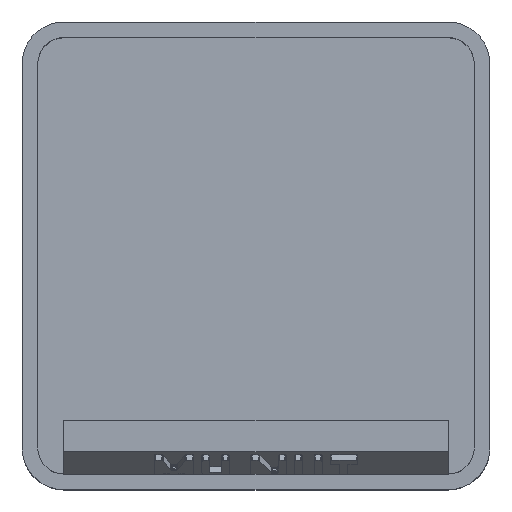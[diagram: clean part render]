
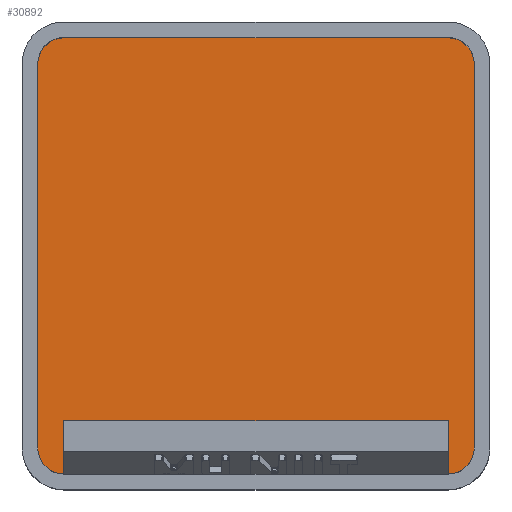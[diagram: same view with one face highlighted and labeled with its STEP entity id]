
A CAD part, top view. The second image highlights one B-rep face of the part: STEP entity #30892.
In plain terms, the highlighted planar face has unit normal (0, 0, 1).
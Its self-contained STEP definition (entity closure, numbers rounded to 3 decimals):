
#912 = PLANE('',#913);
#913 = AXIS2_PLACEMENT_3D('',#914,#915,#916);
#914 = CARTESIAN_POINT('',(-19.6,0.,21.));
#915 = DIRECTION('',(-1.,0.,0.));
#916 = DIRECTION('',(-0.,-1.,-0.));
#940 = CYLINDRICAL_SURFACE('',#941,2.35);
#941 = AXIS2_PLACEMENT_3D('',#942,#943,#944);
#942 = CARTESIAN_POINT('',(-17.25,17.25,5.95));
#943 = DIRECTION('',(-0.,-0.,1.));
#944 = DIRECTION('',(-1.,0.,0.));
#967 = PLANE('',#968);
#968 = AXIS2_PLACEMENT_3D('',#969,#970,#971);
#969 = CARTESIAN_POINT('',(0.,19.6,21.));
#970 = DIRECTION('',(0.,1.,0.));
#971 = DIRECTION('',(-1.,0.,0.));
#995 = CYLINDRICAL_SURFACE('',#996,2.35);
#996 = AXIS2_PLACEMENT_3D('',#997,#998,#999);
#997 = CARTESIAN_POINT('',(17.25,17.25,5.95));
#998 = DIRECTION('',(-0.,-0.,1.));
#999 = DIRECTION('',(-1.,0.,0.));
#1022 = PLANE('',#1023);
#1023 = AXIS2_PLACEMENT_3D('',#1024,#1025,#1026);
#1024 = CARTESIAN_POINT('',(19.6,0.,21.));
#1025 = DIRECTION('',(1.,0.,0.));
#1026 = DIRECTION('',(-0.,1.,0.));
#1050 = CYLINDRICAL_SURFACE('',#1051,2.35);
#1051 = AXIS2_PLACEMENT_3D('',#1052,#1053,#1054);
#1052 = CARTESIAN_POINT('',(17.25,-17.25,5.95));
#1053 = DIRECTION('',(-0.,-0.,1.));
#1054 = DIRECTION('',(-1.,0.,0.));
#1103 = CYLINDRICAL_SURFACE('',#1104,2.35);
#1104 = AXIS2_PLACEMENT_3D('',#1105,#1106,#1107);
#1105 = CARTESIAN_POINT('',(-17.25,-17.25,5.95));
#1106 = DIRECTION('',(-0.,-0.,1.));
#1107 = DIRECTION('',(-1.,0.,0.));
#11677 = EDGE_CURVE('',#11678,#11680,#11682,.T.);
#11678 = VERTEX_POINT('',#11679);
#11679 = CARTESIAN_POINT('',(-19.6,-17.25,5.95));
#11680 = VERTEX_POINT('',#11681);
#11681 = CARTESIAN_POINT('',(-19.6,17.25,5.95));
#11682 = SURFACE_CURVE('',#11683,(#11687,#11694),.PCURVE_S1.);
#11683 = LINE('',#11684,#11685);
#11684 = CARTESIAN_POINT('',(-19.6,0.,5.95));
#11685 = VECTOR('',#11686,1.);
#11686 = DIRECTION('',(0.,1.,0.));
#11687 = PCURVE('',#912,#11688);
#11688 = DEFINITIONAL_REPRESENTATION('',(#11689),#11693);
#11689 = LINE('',#11690,#11691);
#11690 = CARTESIAN_POINT('',(0.,-15.05));
#11691 = VECTOR('',#11692,1.);
#11692 = DIRECTION('',(-1.,0.));
#11693 = ( GEOMETRIC_REPRESENTATION_CONTEXT(2) 
PARAMETRIC_REPRESENTATION_CONTEXT() REPRESENTATION_CONTEXT('2D SPACE',''
  ) );
#11694 = PCURVE('',#11695,#11700);
#11695 = PLANE('',#11696);
#11696 = AXIS2_PLACEMENT_3D('',#11697,#11698,#11699);
#11697 = CARTESIAN_POINT('',(-17.25,-17.25,5.95));
#11698 = DIRECTION('',(0.,0.,-1.));
#11699 = DIRECTION('',(-1.,0.,0.));
#11700 = DEFINITIONAL_REPRESENTATION('',(#11701),#11705);
#11701 = LINE('',#11702,#11703);
#11702 = CARTESIAN_POINT('',(2.35,17.25));
#11703 = VECTOR('',#11704,1.);
#11704 = DIRECTION('',(0.,1.));
#11705 = ( GEOMETRIC_REPRESENTATION_CONTEXT(2) 
PARAMETRIC_REPRESENTATION_CONTEXT() REPRESENTATION_CONTEXT('2D SPACE',''
  ) );
#11752 = EDGE_CURVE('',#11753,#11678,#11755,.T.);
#11753 = VERTEX_POINT('',#11754);
#11754 = CARTESIAN_POINT('',(-17.25,-19.6,5.95));
#11755 = SURFACE_CURVE('',#11756,(#11761,#11768),.PCURVE_S1.);
#11756 = CIRCLE('',#11757,2.35);
#11757 = AXIS2_PLACEMENT_3D('',#11758,#11759,#11760);
#11758 = CARTESIAN_POINT('',(-17.25,-17.25,5.95));
#11759 = DIRECTION('',(0.,0.,-1.));
#11760 = DIRECTION('',(-1.,0.,0.));
#11761 = PCURVE('',#1103,#11762);
#11762 = DEFINITIONAL_REPRESENTATION('',(#11763),#11767);
#11763 = LINE('',#11764,#11765);
#11764 = CARTESIAN_POINT('',(6.283,0.));
#11765 = VECTOR('',#11766,1.);
#11766 = DIRECTION('',(-1.,0.));
#11767 = ( GEOMETRIC_REPRESENTATION_CONTEXT(2) 
PARAMETRIC_REPRESENTATION_CONTEXT() REPRESENTATION_CONTEXT('2D SPACE',''
  ) );
#11768 = PCURVE('',#11695,#11769);
#11769 = DEFINITIONAL_REPRESENTATION('',(#11770),#11774);
#11770 = CIRCLE('',#11771,2.35);
#11771 = AXIS2_PLACEMENT_2D('',#11772,#11773);
#11772 = CARTESIAN_POINT('',(0.,0.));
#11773 = DIRECTION('',(1.,0.));
#11774 = ( GEOMETRIC_REPRESENTATION_CONTEXT(2) 
PARAMETRIC_REPRESENTATION_CONTEXT() REPRESENTATION_CONTEXT('2D SPACE',''
  ) );
#11792 = PLANE('',#11793);
#11793 = AXIS2_PLACEMENT_3D('',#11794,#11795,#11796);
#11794 = CARTESIAN_POINT('',(0.,-19.6,21.));
#11795 = DIRECTION('',(0.,-1.,0.));
#11796 = DIRECTION('',(1.,0.,0.));
#11879 = EDGE_CURVE('',#11880,#11882,#11884,.T.);
#11880 = VERTEX_POINT('',#11881);
#11881 = CARTESIAN_POINT('',(19.6,-17.25,5.95));
#11882 = VERTEX_POINT('',#11883);
#11883 = CARTESIAN_POINT('',(17.25,-19.6,5.95));
#11884 = SURFACE_CURVE('',#11885,(#11890,#11897),.PCURVE_S1.);
#11885 = CIRCLE('',#11886,2.35);
#11886 = AXIS2_PLACEMENT_3D('',#11887,#11888,#11889);
#11887 = CARTESIAN_POINT('',(17.25,-17.25,5.95));
#11888 = DIRECTION('',(0.,0.,-1.));
#11889 = DIRECTION('',(-1.,0.,0.));
#11890 = PCURVE('',#1050,#11891);
#11891 = DEFINITIONAL_REPRESENTATION('',(#11892),#11896);
#11892 = LINE('',#11893,#11894);
#11893 = CARTESIAN_POINT('',(6.283,0.));
#11894 = VECTOR('',#11895,1.);
#11895 = DIRECTION('',(-1.,0.));
#11896 = ( GEOMETRIC_REPRESENTATION_CONTEXT(2) 
PARAMETRIC_REPRESENTATION_CONTEXT() REPRESENTATION_CONTEXT('2D SPACE',''
  ) );
#11897 = PCURVE('',#11695,#11898);
#11898 = DEFINITIONAL_REPRESENTATION('',(#11899),#11903);
#11899 = CIRCLE('',#11900,2.35);
#11900 = AXIS2_PLACEMENT_2D('',#11901,#11902);
#11901 = CARTESIAN_POINT('',(-34.5,0.));
#11902 = DIRECTION('',(1.,0.));
#11903 = ( GEOMETRIC_REPRESENTATION_CONTEXT(2) 
PARAMETRIC_REPRESENTATION_CONTEXT() REPRESENTATION_CONTEXT('2D SPACE',''
  ) );
#11977 = EDGE_CURVE('',#11880,#11978,#11980,.T.);
#11978 = VERTEX_POINT('',#11979);
#11979 = CARTESIAN_POINT('',(19.6,17.25,5.95));
#11980 = SURFACE_CURVE('',#11981,(#11985,#11992),.PCURVE_S1.);
#11981 = LINE('',#11982,#11983);
#11982 = CARTESIAN_POINT('',(19.6,0.,5.95));
#11983 = VECTOR('',#11984,1.);
#11984 = DIRECTION('',(0.,1.,0.));
#11985 = PCURVE('',#1022,#11986);
#11986 = DEFINITIONAL_REPRESENTATION('',(#11987),#11991);
#11987 = LINE('',#11988,#11989);
#11988 = CARTESIAN_POINT('',(0.,-15.05));
#11989 = VECTOR('',#11990,1.);
#11990 = DIRECTION('',(1.,0.));
#11991 = ( GEOMETRIC_REPRESENTATION_CONTEXT(2) 
PARAMETRIC_REPRESENTATION_CONTEXT() REPRESENTATION_CONTEXT('2D SPACE',''
  ) );
#11992 = PCURVE('',#11695,#11993);
#11993 = DEFINITIONAL_REPRESENTATION('',(#11994),#11998);
#11994 = LINE('',#11995,#11996);
#11995 = CARTESIAN_POINT('',(-36.85,17.25));
#11996 = VECTOR('',#11997,1.);
#11997 = DIRECTION('',(0.,1.));
#11998 = ( GEOMETRIC_REPRESENTATION_CONTEXT(2) 
PARAMETRIC_REPRESENTATION_CONTEXT() REPRESENTATION_CONTEXT('2D SPACE',''
  ) );
#12025 = EDGE_CURVE('',#12026,#11978,#12028,.T.);
#12026 = VERTEX_POINT('',#12027);
#12027 = CARTESIAN_POINT('',(17.25,19.6,5.95));
#12028 = SURFACE_CURVE('',#12029,(#12034,#12041),.PCURVE_S1.);
#12029 = CIRCLE('',#12030,2.35);
#12030 = AXIS2_PLACEMENT_3D('',#12031,#12032,#12033);
#12031 = CARTESIAN_POINT('',(17.25,17.25,5.95));
#12032 = DIRECTION('',(0.,0.,-1.));
#12033 = DIRECTION('',(-1.,0.,0.));
#12034 = PCURVE('',#995,#12035);
#12035 = DEFINITIONAL_REPRESENTATION('',(#12036),#12040);
#12036 = LINE('',#12037,#12038);
#12037 = CARTESIAN_POINT('',(6.283,0.));
#12038 = VECTOR('',#12039,1.);
#12039 = DIRECTION('',(-1.,0.));
#12040 = ( GEOMETRIC_REPRESENTATION_CONTEXT(2) 
PARAMETRIC_REPRESENTATION_CONTEXT() REPRESENTATION_CONTEXT('2D SPACE',''
  ) );
#12041 = PCURVE('',#11695,#12042);
#12042 = DEFINITIONAL_REPRESENTATION('',(#12043),#12047);
#12043 = CIRCLE('',#12044,2.35);
#12044 = AXIS2_PLACEMENT_2D('',#12045,#12046);
#12045 = CARTESIAN_POINT('',(-34.5,34.5));
#12046 = DIRECTION('',(1.,0.));
#12047 = ( GEOMETRIC_REPRESENTATION_CONTEXT(2) 
PARAMETRIC_REPRESENTATION_CONTEXT() REPRESENTATION_CONTEXT('2D SPACE',''
  ) );
#12075 = EDGE_CURVE('',#12076,#12026,#12078,.T.);
#12076 = VERTEX_POINT('',#12077);
#12077 = CARTESIAN_POINT('',(-17.25,19.6,5.95));
#12078 = SURFACE_CURVE('',#12079,(#12083,#12090),.PCURVE_S1.);
#12079 = LINE('',#12080,#12081);
#12080 = CARTESIAN_POINT('',(0.,19.6,5.95));
#12081 = VECTOR('',#12082,1.);
#12082 = DIRECTION('',(1.,0.,0.));
#12083 = PCURVE('',#967,#12084);
#12084 = DEFINITIONAL_REPRESENTATION('',(#12085),#12089);
#12085 = LINE('',#12086,#12087);
#12086 = CARTESIAN_POINT('',(0.,-15.05));
#12087 = VECTOR('',#12088,1.);
#12088 = DIRECTION('',(-1.,0.));
#12089 = ( GEOMETRIC_REPRESENTATION_CONTEXT(2) 
PARAMETRIC_REPRESENTATION_CONTEXT() REPRESENTATION_CONTEXT('2D SPACE',''
  ) );
#12090 = PCURVE('',#11695,#12091);
#12091 = DEFINITIONAL_REPRESENTATION('',(#12092),#12096);
#12092 = LINE('',#12093,#12094);
#12093 = CARTESIAN_POINT('',(-17.25,36.85));
#12094 = VECTOR('',#12095,1.);
#12095 = DIRECTION('',(-1.,0.));
#12096 = ( GEOMETRIC_REPRESENTATION_CONTEXT(2) 
PARAMETRIC_REPRESENTATION_CONTEXT() REPRESENTATION_CONTEXT('2D SPACE',''
  ) );
#12124 = EDGE_CURVE('',#11680,#12076,#12125,.T.);
#12125 = SURFACE_CURVE('',#12126,(#12131,#12138),.PCURVE_S1.);
#12126 = CIRCLE('',#12127,2.35);
#12127 = AXIS2_PLACEMENT_3D('',#12128,#12129,#12130);
#12128 = CARTESIAN_POINT('',(-17.25,17.25,5.95));
#12129 = DIRECTION('',(0.,0.,-1.));
#12130 = DIRECTION('',(-1.,0.,0.));
#12131 = PCURVE('',#940,#12132);
#12132 = DEFINITIONAL_REPRESENTATION('',(#12133),#12137);
#12133 = LINE('',#12134,#12135);
#12134 = CARTESIAN_POINT('',(6.283,0.));
#12135 = VECTOR('',#12136,1.);
#12136 = DIRECTION('',(-1.,0.));
#12137 = ( GEOMETRIC_REPRESENTATION_CONTEXT(2) 
PARAMETRIC_REPRESENTATION_CONTEXT() REPRESENTATION_CONTEXT('2D SPACE',''
  ) );
#12138 = PCURVE('',#11695,#12139);
#12139 = DEFINITIONAL_REPRESENTATION('',(#12140),#12144);
#12140 = CIRCLE('',#12141,2.35);
#12141 = AXIS2_PLACEMENT_2D('',#12142,#12143);
#12142 = CARTESIAN_POINT('',(0.,34.5));
#12143 = DIRECTION('',(1.,0.));
#12144 = ( GEOMETRIC_REPRESENTATION_CONTEXT(2) 
PARAMETRIC_REPRESENTATION_CONTEXT() REPRESENTATION_CONTEXT('2D SPACE',''
  ) );
#30892 = ADVANCED_FACE('',(#30893),#11695,.F.);
#30893 = FACE_BOUND('',#30894,.T.);
#30894 = EDGE_LOOP('',(#30895,#30896,#30897,#30918,#30919,#30920,#30921,
    #30922));
#30895 = ORIENTED_EDGE('',*,*,#11677,.F.);
#30896 = ORIENTED_EDGE('',*,*,#11752,.F.);
#30897 = ORIENTED_EDGE('',*,*,#30898,.T.);
#30898 = EDGE_CURVE('',#11753,#11882,#30899,.T.);
#30899 = SURFACE_CURVE('',#30900,(#30904,#30911),.PCURVE_S1.);
#30900 = LINE('',#30901,#30902);
#30901 = CARTESIAN_POINT('',(0.,-19.6,5.95));
#30902 = VECTOR('',#30903,1.);
#30903 = DIRECTION('',(1.,0.,0.));
#30904 = PCURVE('',#11695,#30905);
#30905 = DEFINITIONAL_REPRESENTATION('',(#30906),#30910);
#30906 = LINE('',#30907,#30908);
#30907 = CARTESIAN_POINT('',(-17.25,-2.35));
#30908 = VECTOR('',#30909,1.);
#30909 = DIRECTION('',(-1.,0.));
#30910 = ( GEOMETRIC_REPRESENTATION_CONTEXT(2) 
PARAMETRIC_REPRESENTATION_CONTEXT() REPRESENTATION_CONTEXT('2D SPACE',''
  ) );
#30911 = PCURVE('',#11792,#30912);
#30912 = DEFINITIONAL_REPRESENTATION('',(#30913),#30917);
#30913 = LINE('',#30914,#30915);
#30914 = CARTESIAN_POINT('',(0.,-15.05));
#30915 = VECTOR('',#30916,1.);
#30916 = DIRECTION('',(1.,0.));
#30917 = ( GEOMETRIC_REPRESENTATION_CONTEXT(2) 
PARAMETRIC_REPRESENTATION_CONTEXT() REPRESENTATION_CONTEXT('2D SPACE',''
  ) );
#30918 = ORIENTED_EDGE('',*,*,#11879,.F.);
#30919 = ORIENTED_EDGE('',*,*,#11977,.T.);
#30920 = ORIENTED_EDGE('',*,*,#12025,.F.);
#30921 = ORIENTED_EDGE('',*,*,#12075,.F.);
#30922 = ORIENTED_EDGE('',*,*,#12124,.F.);
